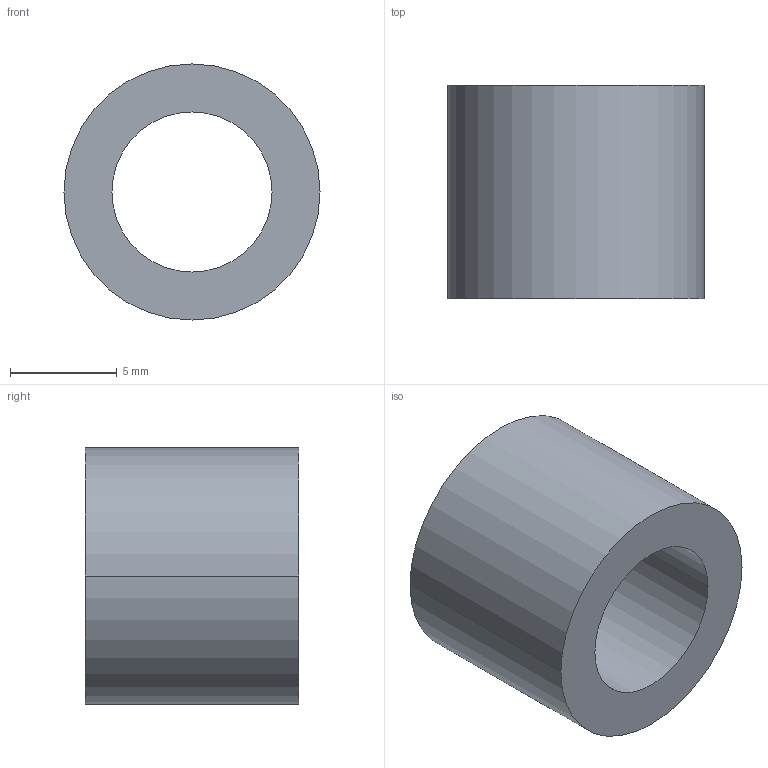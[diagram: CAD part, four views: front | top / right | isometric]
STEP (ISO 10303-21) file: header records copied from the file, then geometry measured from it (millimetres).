
FILE_DESCRIPTION (( 'STEP AP203' ), '1' );
FILE_NAME ('30800.WPP12D7.5.step', '2019-01-23T22:28:03', ( '' ), ( '' ), 'SwSTEP 2.0', 'SolidWorks 2017', '' );
FILE_SCHEMA (( 'CONFIG_CONTROL_DESIGN' ));
Length unit declared in the file: millimetre
Products named in the file (1): 30800.WPP12D7.5
Bounding box: 12 x 10 x 12 mm (x, y, z)
Volume: 676.8 mm3; surface area: 736.3 mm2
Topology: 1 solids, 1 shells, 8 faces, 16 edges, 10 vertices
Faces by surface type: cylinder 4, torus 2, plane 2
Entity records: 297 total; most frequent: DIRECTION 46, CARTESIAN_POINT 35, ORIENTED_EDGE 32, AXIS2_PLACEMENT_3D 21, EDGE_CURVE 16, CIRCLE 12, EDGE_LOOP 10, VERTEX_POINT 10
